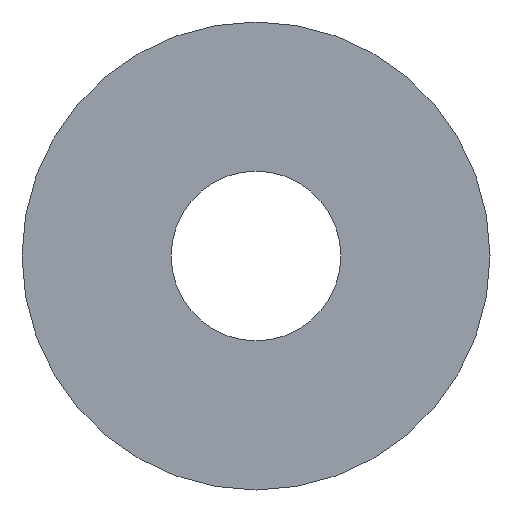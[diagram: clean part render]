
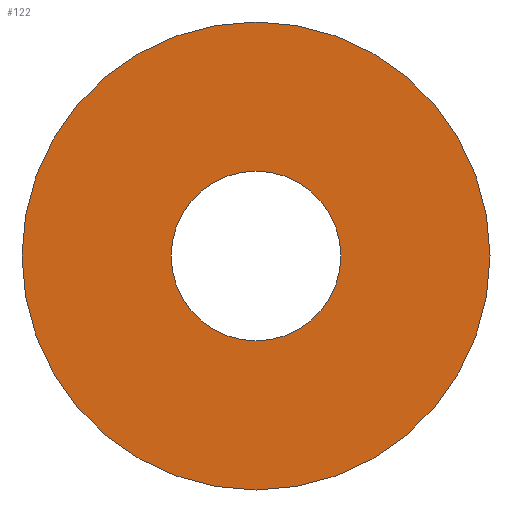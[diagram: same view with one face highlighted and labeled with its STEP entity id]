
A CAD part, front view. The second image highlights one B-rep face of the part: STEP entity #122.
In plain terms, the highlighted planar face has unit normal (0, -1, 0).
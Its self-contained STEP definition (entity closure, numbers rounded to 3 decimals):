
#8 = ORIENTED_EDGE ( 'NONE', *, *, #195, .F. ) ;
#14 = EDGE_CURVE ( 'NONE', #178, #215, #121, .T. ) ;
#17 = ORIENTED_EDGE ( 'NONE', *, *, #57, .F. ) ;
#19 = DIRECTION ( 'NONE',  ( 0., 1., 0. ) ) ;
#27 = CIRCLE ( 'NONE', #51, 510. ) ;
#31 = EDGE_CURVE ( 'NONE', #215, #178, #217, .T. ) ;
#45 = EDGE_LOOP ( 'NONE', ( #187, #200 ) ) ;
#48 = CARTESIAN_POINT ( 'NONE',  ( 0., 0., 0. ) ) ;
#51 = AXIS2_PLACEMENT_3D ( 'NONE', #48, #222, #147 ) ;
#53 = CARTESIAN_POINT ( 'NONE',  ( 0., 0., 510. ) ) ;
#57 = EDGE_CURVE ( 'NONE', #188, #236, #27, .T. ) ;
#61 = AXIS2_PLACEMENT_3D ( 'NONE', #220, #67, #105 ) ;
#67 = DIRECTION ( 'NONE',  ( 0., 1., 0. ) ) ;
#70 = CIRCLE ( 'NONE', #213, 510. ) ;
#72 = DIRECTION ( 'NONE',  ( 0., 1., 0. ) ) ;
#73 = CARTESIAN_POINT ( 'NONE',  ( 0., 0., -185. ) ) ;
#94 = AXIS2_PLACEMENT_3D ( 'NONE', #190, #19, #245 ) ;
#105 = DIRECTION ( 'NONE',  ( 0., 0., 1. ) ) ;
#108 = EDGE_LOOP ( 'NONE', ( #17, #8 ) ) ;
#113 = CARTESIAN_POINT ( 'NONE',  ( 0., 0., -510. ) ) ;
#121 = CIRCLE ( 'NONE', #237, 185. ) ;
#122 = ADVANCED_FACE ( 'NONE', ( #161, #143 ), #218, .F. ) ;
#134 = CARTESIAN_POINT ( 'NONE',  ( 0., 0., 0. ) ) ;
#143 = FACE_BOUND ( 'NONE', #45, .T. ) ;
#147 = DIRECTION ( 'NONE',  ( 0., 0., 1. ) ) ;
#152 = CARTESIAN_POINT ( 'NONE',  ( 0., 0., 185. ) ) ;
#161 = FACE_OUTER_BOUND ( 'NONE', #108, .T. ) ;
#178 = VERTEX_POINT ( 'NONE', #73 ) ;
#187 = ORIENTED_EDGE ( 'NONE', *, *, #14, .T. ) ;
#188 = VERTEX_POINT ( 'NONE', #113 ) ;
#189 = DIRECTION ( 'NONE',  ( 0., 0., 1. ) ) ;
#190 = CARTESIAN_POINT ( 'NONE',  ( 0., 0., 0. ) ) ;
#195 = EDGE_CURVE ( 'NONE', #236, #188, #70, .T. ) ;
#200 = ORIENTED_EDGE ( 'NONE', *, *, #31, .T. ) ;
#203 = CARTESIAN_POINT ( 'NONE',  ( 0., 0., 0. ) ) ;
#206 = DIRECTION ( 'NONE',  ( 0., 1., 0. ) ) ;
#213 = AXIS2_PLACEMENT_3D ( 'NONE', #134, #72, #249 ) ;
#215 = VERTEX_POINT ( 'NONE', #152 ) ;
#217 = CIRCLE ( 'NONE', #61, 185. ) ;
#218 = PLANE ( 'NONE',  #94 ) ;
#220 = CARTESIAN_POINT ( 'NONE',  ( 0., 0., 0. ) ) ;
#222 = DIRECTION ( 'NONE',  ( 0., 1., 0. ) ) ;
#236 = VERTEX_POINT ( 'NONE', #53 ) ;
#237 = AXIS2_PLACEMENT_3D ( 'NONE', #203, #206, #189 ) ;
#245 = DIRECTION ( 'NONE',  ( 0., 0., 1. ) ) ;
#249 = DIRECTION ( 'NONE',  ( 0., 0., 1. ) ) ;
